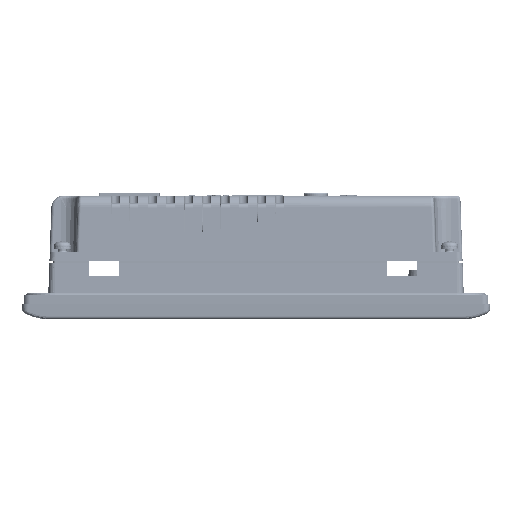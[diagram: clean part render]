
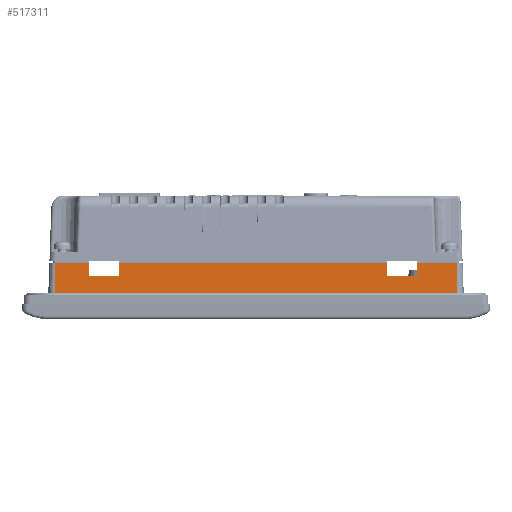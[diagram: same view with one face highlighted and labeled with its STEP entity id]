
A CAD part, left-side view. The second image highlights one B-rep face of the part: STEP entity #517311.
In plain terms, the highlighted planar face has unit normal (-0.999, 0, 0.035).
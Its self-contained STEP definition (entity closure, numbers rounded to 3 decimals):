
#285507=CARTESIAN_POINT('',(9.,143.,18.5));
#285508=VERTEX_POINT('',#285507);
#285516=CARTESIAN_POINT('',(9.,132.,18.5));
#285517=VERTEX_POINT('',#285516);
#285518=CARTESIAN_POINT('',(9.,143.,18.5));
#285519=DIRECTION('',(0.0,-1.0,0.0));
#285520=VECTOR('',#285519,11.0);
#285521=LINE('',#285518,#285520);
#285522=EDGE_CURVE('',#285508,#285517,#285521,.T.);
#285953=CARTESIAN_POINT('',(9.,24.,18.5));
#285954=VERTEX_POINT('',#285953);
#285961=CARTESIAN_POINT('',(9.,11.,18.5));
#285962=VERTEX_POINT('',#285961);
#285963=CARTESIAN_POINT('',(9.,24.,18.5));
#285964=DIRECTION('',(0.0,-1.0,0.0));
#285965=VECTOR('',#285964,13.);
#285966=LINE('',#285963,#285965);
#285967=EDGE_CURVE('',#285954,#285962,#285966,.T.);
#494238=CARTESIAN_POINT('',(8.85,24.,14.2));
#494239=VERTEX_POINT('',#494238);
#494246=CARTESIAN_POINT('',(9.,24.,18.5));
#494247=DIRECTION('',(-0.035,0.,-0.999));
#494248=VECTOR('',#494247,4.303);
#494249=LINE('',#494246,#494248);
#494250=EDGE_CURVE('',#285954,#494239,#494249,.T.);
#494275=CARTESIAN_POINT('',(9.,34.,18.5));
#494276=VERTEX_POINT('',#494275);
#494283=CARTESIAN_POINT('',(8.85,34.,14.2));
#494284=VERTEX_POINT('',#494283);
#494285=CARTESIAN_POINT('',(8.85,34.,14.2));
#494286=DIRECTION('',(0.035,0.0,0.999));
#494287=VECTOR('',#494286,4.303);
#494288=LINE('',#494285,#494287);
#494289=EDGE_CURVE('',#494284,#494276,#494288,.T.);
#494307=CARTESIAN_POINT('',(8.85,24.,14.2));
#494308=DIRECTION('',(0.0,1.0,0.0));
#494309=VECTOR('',#494308,10.);
#494310=LINE('',#494307,#494309);
#494311=EDGE_CURVE('',#494239,#494284,#494310,.T.);
#494323=CARTESIAN_POINT('',(8.85,122.,14.2));
#494324=VERTEX_POINT('',#494323);
#494331=CARTESIAN_POINT('',(9.,122.,18.5));
#494332=VERTEX_POINT('',#494331);
#494333=CARTESIAN_POINT('',(9.,122.,18.5));
#494334=DIRECTION('',(-0.035,0.0,-0.999));
#494335=VECTOR('',#494334,4.303);
#494336=LINE('',#494333,#494335);
#494337=EDGE_CURVE('',#494332,#494324,#494336,.T.);
#494368=CARTESIAN_POINT('',(8.85,132.,14.2));
#494369=VERTEX_POINT('',#494368);
#494370=CARTESIAN_POINT('',(8.85,132.,14.2));
#494371=DIRECTION('',(0.035,0.0,0.999));
#494372=VECTOR('',#494371,4.303);
#494373=LINE('',#494370,#494372);
#494374=EDGE_CURVE('',#494369,#285517,#494373,.T.);
#494392=CARTESIAN_POINT('',(8.85,122.,14.2));
#494393=DIRECTION('',(0.0,1.0,0.0));
#494394=VECTOR('',#494393,10.);
#494395=LINE('',#494392,#494394);
#494396=EDGE_CURVE('',#494324,#494369,#494395,.T.);
#494665=CARTESIAN_POINT('',(9.,122.,18.5));
#494666=DIRECTION('',(0.0,-1.0,0.0));
#494667=VECTOR('',#494666,88.0);
#494668=LINE('',#494665,#494667);
#494669=EDGE_CURVE('',#494332,#494276,#494668,.T.);
#517253=CARTESIAN_POINT('',(8.626,11.,7.8));
#517254=VERTEX_POINT('',#517253);
#517271=CARTESIAN_POINT('',(9.,11.,18.5));
#517272=DIRECTION('',(-0.035,0.,-0.999));
#517273=VECTOR('',#517272,10.707);
#517274=LINE('',#517271,#517273);
#517275=EDGE_CURVE('',#285962,#517254,#517274,.T.);
#517280=CARTESIAN_POINT('',(9.,145.,18.5));
#517281=DIRECTION('',(-0.999,0.,0.035));
#517282=DIRECTION('',(0.035,0.,0.999));
#517283=AXIS2_PLACEMENT_3D('',#517280,#517281,#517282);
#517284=PLANE('',#517283);
#517285=CARTESIAN_POINT('',(8.626,143.,7.8));
#517286=VERTEX_POINT('',#517285);
#517287=CARTESIAN_POINT('',(8.626,143.,7.8));
#517288=DIRECTION('',(0.0,-1.0,0.0));
#517289=VECTOR('',#517288,132.);
#517290=LINE('',#517287,#517289);
#517291=EDGE_CURVE('',#517286,#517254,#517290,.T.);
#517292=ORIENTED_EDGE('',*,*,#517291,.T.);
#517293=ORIENTED_EDGE('',*,*,#517275,.F.);
#517294=ORIENTED_EDGE('',*,*,#285967,.F.);
#517295=ORIENTED_EDGE('',*,*,#494250,.T.);
#517296=ORIENTED_EDGE('',*,*,#494311,.T.);
#517297=ORIENTED_EDGE('',*,*,#494289,.T.);
#517298=ORIENTED_EDGE('',*,*,#494669,.F.);
#517299=ORIENTED_EDGE('',*,*,#494337,.T.);
#517300=ORIENTED_EDGE('',*,*,#494396,.T.);
#517301=ORIENTED_EDGE('',*,*,#494374,.T.);
#517302=ORIENTED_EDGE('',*,*,#285522,.F.);
#517303=CARTESIAN_POINT('',(8.626,143.,7.8));
#517304=DIRECTION('',(0.035,0.,0.999));
#517305=VECTOR('',#517304,10.707);
#517306=LINE('',#517303,#517305);
#517307=EDGE_CURVE('',#517286,#285508,#517306,.T.);
#517308=ORIENTED_EDGE('',*,*,#517307,.F.);
#517309=EDGE_LOOP('',(#517292,#517293,#517294,#517295,#517296,#517297,#517298,#517299,#517300,#517301,#517302,#517308));
#517310=FACE_OUTER_BOUND('',#517309,.T.);
#517311=ADVANCED_FACE('',(#517310),#517284,.T.);
